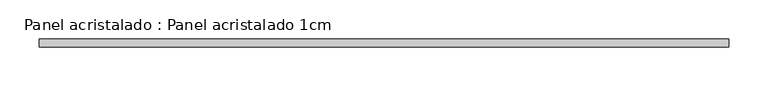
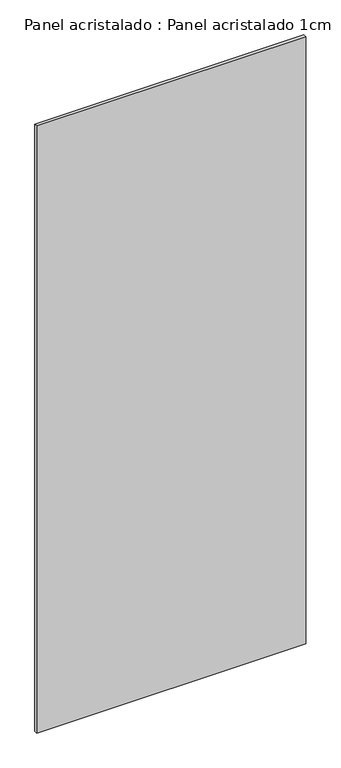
"""IFC4 building model written with IfcOpenShell, lengths in millimetres: plate geometry, Panel acristalado : Panel acristalado 1cm."""

from ifc_helpers import new_model, si_unit, origin, origin_with_axes, place, context, project, spatial, polyline, outline, extrude, source, transform, mapped, element, save


def panel_acristalado_panel_acristalado_1cm_8d3dcf01(model_context):
    return source(origin(), model_context, "Body", "SweptSolid", [
        extrude(outline(polyline([(440.0, -20.0), (440.0, -30.0), (-440.0, -30.0), (-440.0, -20.0), (440.0, -20.0)])), origin_with_axes(), (0.0, 0.0, 1.0), 2100.0),
    ])


if __name__ == "__main__":
    model = new_model("IFC4")
    model_context = context("Model", 3, world=origin())
    ifc_project = project(units=[si_unit("LENGTHUNIT", "METRE", prefix="MILLI")], contexts=[model_context])
    site = spatial("IfcSite", under=ifc_project)
    building = spatial("IfcBuilding", under=site)
    placement = place(None, origin())
    panel_acristalado_panel_acristalado_1cm_shape = panel_acristalado_panel_acristalado_1cm_8d3dcf01(model_context)
    element("IfcPlate", 1, ObjectType="Panel acristalado : Panel acristalado 1cm", at=placement, inside=building, context=model_context, shape_type="MappedRepresentation", body=[
        mapped(panel_acristalado_panel_acristalado_1cm_shape, transform((0.0, 0.0, 0.0), x_axis=(1.0, 0.0, 0.0), y_axis=(0.0, 1.0, 0.0), z_axis=(0.0, 0.0, 1.0))),
    ])
    save(model, "model.ifc")
